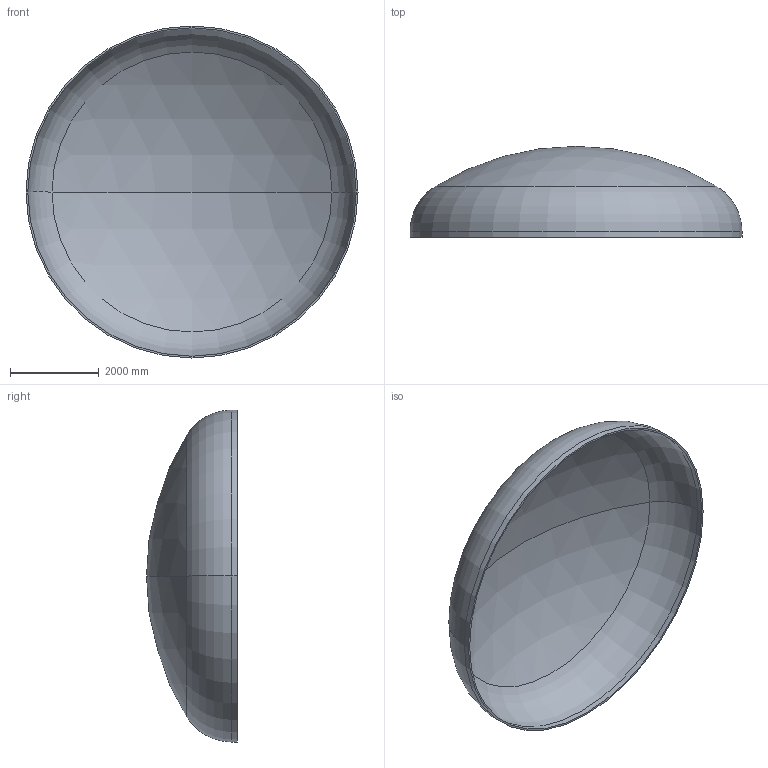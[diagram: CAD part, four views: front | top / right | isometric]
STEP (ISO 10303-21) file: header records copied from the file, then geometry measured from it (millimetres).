
FILE_DESCRIPTION (( 'STEP AP203' ), '1' );
FILE_NAME ('DIN 28013 Korbbogenform_-_Boden DIN 28013 - 7500 x 130 - I - s=41.step', '2016-07-04T10:53:51', ( '' ), ( '' ), 'SwSTEP 2.0', 'SolidWorks 2013', '' );
FILE_SCHEMA (( 'CONFIG_CONTROL_DESIGN' ));
Length unit declared in the file: millimetre
Products named in the file (1): DIN 28013 Korbbogenform_-_Boden DIN 28013 - 7500 x 130 - I - s=41
Bounding box: 7500 x 2053.83 x 7500 mm (x, y, z)
Volume: 2615563808.2 mm3; surface area: 128552707.8 mm2
Topology: 1 solids, 1 shells, 13 faces, 24 edges, 14 vertices
Faces by surface type: torus 4, cylinder 4, sphere 4, plane 1
Entity records: 407 total; most frequent: DIRECTION 72, CARTESIAN_POINT 52, ORIENTED_EDGE 48, AXIS2_PLACEMENT_3D 34, EDGE_CURVE 24, CIRCLE 20, VERTEX_POINT 14, EDGE_LOOP 14
